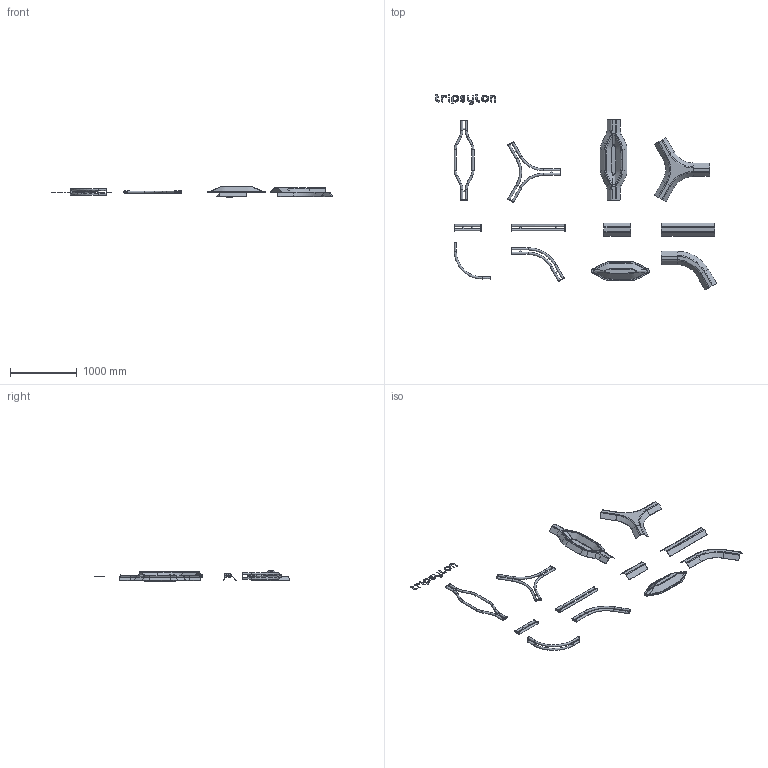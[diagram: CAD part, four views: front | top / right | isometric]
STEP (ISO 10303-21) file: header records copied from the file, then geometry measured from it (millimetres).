
FILE_DESCRIPTION(/* description */ (''),/* implementation_level */ '2;1');
FILE_NAME(/* name */ 'tripsylon',/* time_stamp */ '2025-12-18T14:34:48+01:00',/* author */ (''),/* organization */ (''),/* preprocessor_version */ 'ST-DEVELOPER v19.2',/* originating_system */ 'Rhino 8.25',/* authorisation */ '');
FILE_SCHEMA (('CONFIG_CONTROL_DESIGN'));
Length unit declared in the file: millimetre
Products named in the file (1): Document
Bounding box: 4204.02 x 2930.45 x 172.5 mm (x, y, z)
Volume: 14226472.5 mm3; surface area: 4780843.4 mm2
Topology: 44 solids, 68 shells, 617 faces, 1628 edges, 1346 vertices
Faces by surface type: bspline 230, plane 227, cylinder 160
Full cylindrical faces by diameter (mm): 20 x13, 32 x34
Entity records: 49894 total; most frequent: CARTESIAN_POINT 39910, ORIENTED_EDGE 2554, EDGE_CURVE 1339, B_SPLINE_CURVE_WITH_KNOTS 1030, VERTEX_POINT 810, DIRECTION 771, EDGE_LOOP 621, ADVANCED_FACE 617
